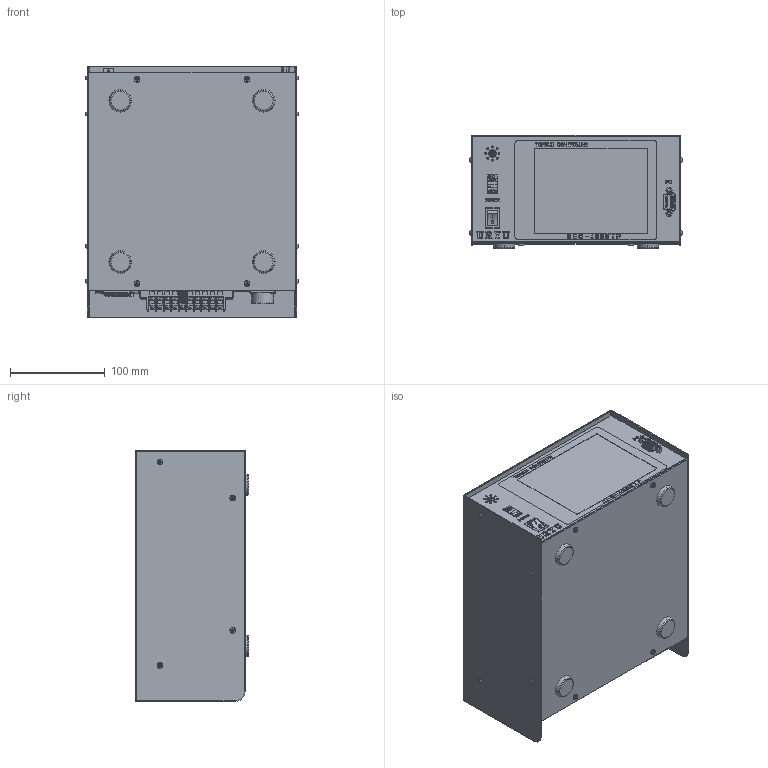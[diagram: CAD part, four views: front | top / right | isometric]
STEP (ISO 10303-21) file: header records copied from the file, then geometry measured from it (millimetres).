
FILE_DESCRIPTION (( 'STEP AP214' ), '1' );
FILE_NAME ('‚S‚W‚O‚O.STEP', '2008-08-29T04:55:52', ( ' ' ), ( ' ' ), 'SwSTEP 2.0', 'SolidWorks 2006104', '' );
FILE_SCHEMA (( 'AUTOMOTIVE_DESIGN' ));
Length unit declared in the file: millimetre
Products named in the file (1): ４８００
Bounding box: 225 x 119.88 x 265 mm (x, y, z)
Volume: 1612019.2 mm3; surface area: 527542.4 mm2
Topology: 11 solids, 11 shells, 8125 faces, 21996 edges, 14547 vertices
Faces by surface type: plane 4290, bspline 2706, cylinder 584, cone 436, torus 105, sphere 4
Entity records: 457828 total; most frequent: CARTESIAN_POINT 198585, ORIENTED_EDGE 43952, DIRECTION 29335, EDGE_CURVE 21976, VERTEX_POINT 14547, LINE 13909, VECTOR 13909, EDGE_LOOP 8801
